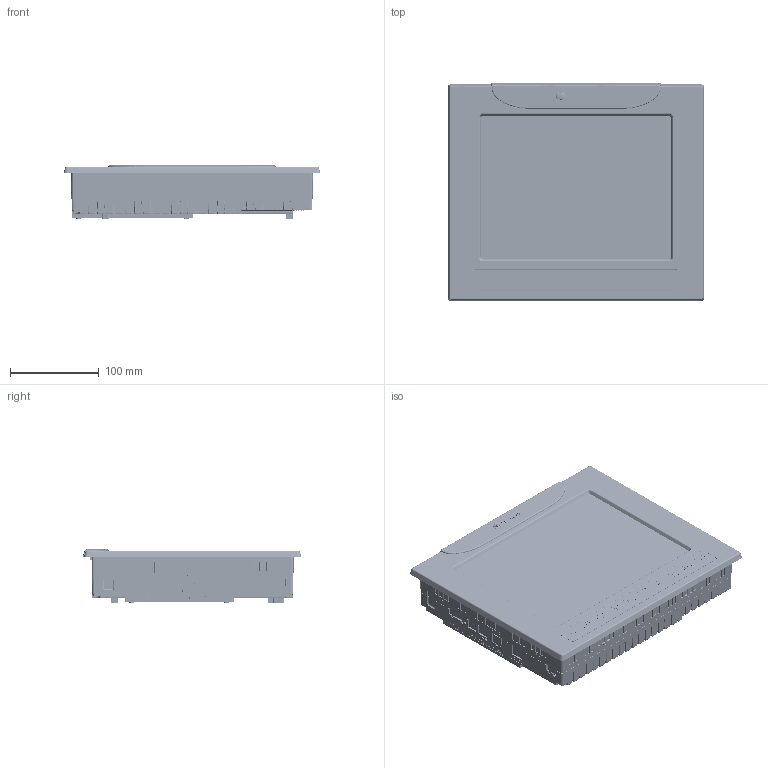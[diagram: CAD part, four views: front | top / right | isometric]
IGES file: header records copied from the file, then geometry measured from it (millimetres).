
Start section: SolidWorks IGES file using analytic representation for surfaces
Global section: file name: Z:\HW\Products\V1040\CAD Files\3D\V1040-T20B1.IGS; native system: SolidWorks 2009; preprocessor: SolidWorks 2009; author: baraki; date: 110322.135003; units: millimetre
Bounding box: 289 x 246 x 61.4 mm (x, y, z)
Surface area: 246574.3 mm2 (no closed solid volume)
Topology: 0 solids, 0 shells, 5971 faces, 49535 edges, 49473 vertices
Faces by surface type: bspline 4761, revolution 1210
